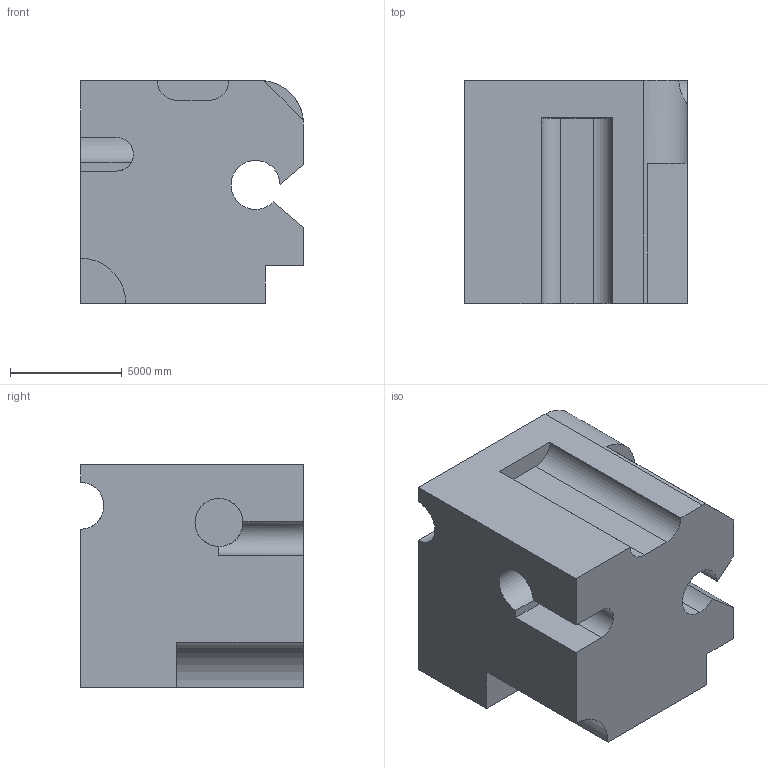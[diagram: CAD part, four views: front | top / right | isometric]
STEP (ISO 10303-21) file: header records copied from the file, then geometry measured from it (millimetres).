
FILE_DESCRIPTION (( 'STEP AP203' ), '1' );
FILE_NAME ('954.STEP', '2022-08-04T16:19:59', ( 'user' ), ( '' ), 'SwSTEP 2.0', 'SolidWorks 2021', '' );
FILE_SCHEMA (( 'CONFIG_CONTROL_DESIGN' ));
Length unit declared in the file: centimetre
Products named in the file (1): 954
Bounding box: 10000 x 10000 x 10000 mm (x, y, z)
Volume: 806568725872.3 mm3; surface area: 698744146.3 mm2
Topology: 1 solids, 1 shells, 32 faces, 90 edges, 60 vertices
Faces by surface type: plane 21, cylinder 11
Entity records: 1300 total; most frequent: CARTESIAN_POINT 374, ORIENTED_EDGE 180, DIRECTION 177, EDGE_CURVE 90, LINE 63, VECTOR 63, VERTEX_POINT 60, AXIS2_PLACEMENT_3D 57
